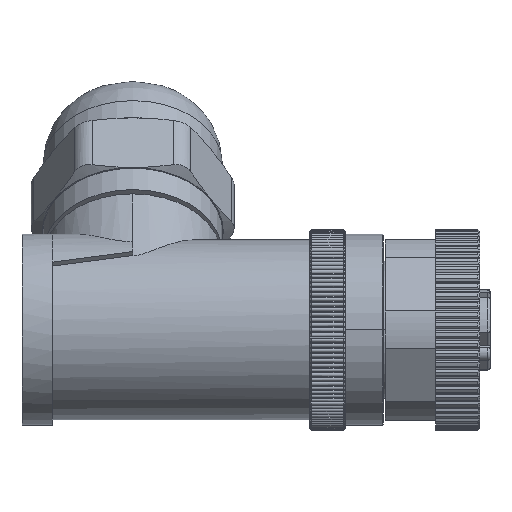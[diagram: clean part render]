
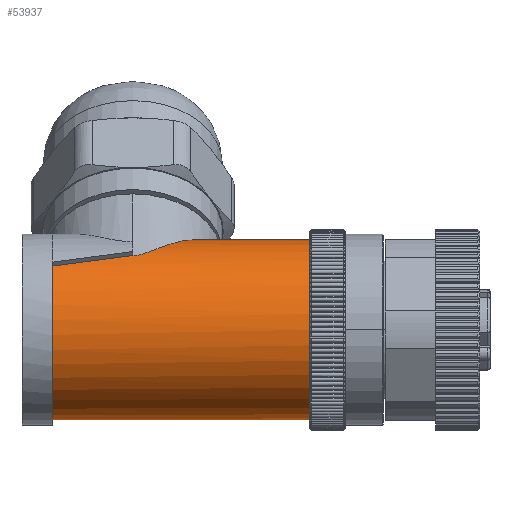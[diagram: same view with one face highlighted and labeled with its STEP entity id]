
A CAD part, left-side view. The second image highlights one B-rep face of the part: STEP entity #53937.
In plain terms, the highlighted cylindrical face has radius 8.95 mm (diameter 17.9 mm), a partial arc.
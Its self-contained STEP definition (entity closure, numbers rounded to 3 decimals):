
#11315=CARTESIAN_POINT('',(0.,16.385,
8.95));
#12228=CARTESIAN_POINT('',(0.,4.9,0.));
#12229=DIRECTION('',(0.,-1.,0.));
#12230=DIRECTION('',(0.,0.,1.));
#12231=AXIS2_PLACEMENT_3D('',#12228,#12229,#12230);
#12233=DIRECTION('',(0.,-1.,0.));
#12234=VECTOR('',#12233,25.6);
#12235=CARTESIAN_POINT('',(0.,30.5,-8.95));
#12236=LINE('',#12235,#12234);
#12237=CARTESIAN_POINT('',(0.,30.5,0.));
#12238=DIRECTION('',(0.,1.,0.));
#12239=DIRECTION('',(0.,0.,-1.));
#12240=AXIS2_PLACEMENT_3D('',#12237,#12238,#12239);
#12242=CARTESIAN_POINT('',(-5.069,22.5,7.376));
#12243=CARTESIAN_POINT('',(-5.524,25.166,
7.063));
#12244=CARTESIAN_POINT('',(-5.944,27.832,
6.713));
#12245=CARTESIAN_POINT('',(-6.329,30.5,6.329));
#12247=CARTESIAN_POINT('',(-5.069,22.5,7.376));
#12248=CARTESIAN_POINT('',(-5.069,22.31,
7.376));
#12249=CARTESIAN_POINT('',(-5.012,21.924,
7.416));
#12250=CARTESIAN_POINT('',(-4.762,21.322,
7.581));
#12251=CARTESIAN_POINT('',(-4.398,20.717,
7.8));
#12252=CARTESIAN_POINT('',(-3.939,20.091,
8.043));
#12253=CARTESIAN_POINT('',(-3.387,19.434,
8.293));
#12254=CARTESIAN_POINT('',(-2.737,18.738,
8.532));
#12255=CARTESIAN_POINT('',(-1.974,17.997,
8.743));
#12256=CARTESIAN_POINT('',(-1.081,17.214,
8.902));
#12257=CARTESIAN_POINT('',(-0.379,16.662,
8.95));
#12258=CARTESIAN_POINT('',(0.,16.385,
8.95));
#12260=DIRECTION('',(0.,-1.,0.));
#12261=VECTOR('',#12260,11.485);
#12262=CARTESIAN_POINT('',(0.,16.385,
8.95));
#12263=LINE('',#12262,#12261);
#39941=VERTEX_POINT('',#11315);
#39948=CARTESIAN_POINT('',(-6.329,30.5,6.329));
#39949=VERTEX_POINT('',#39948);
#39955=CARTESIAN_POINT('',(-5.069,22.5,7.376));
#39957=VERTEX_POINT('',#39955);
#39962=CARTESIAN_POINT('',(0.,30.5,-8.95));
#39963=VERTEX_POINT('',#39962);
#43967=CARTESIAN_POINT('',(0.,4.9,-8.95));
#43968=VERTEX_POINT('',#43967);
#43969=CARTESIAN_POINT('',(0.,4.9,8.95));
#43970=VERTEX_POINT('',#43969);
#53921=CARTESIAN_POINT('',(0.,33.5,0.));
#53922=DIRECTION('',(0.,-1.,0.));
#53923=DIRECTION('',(0.,0.,-1.));
#53924=AXIS2_PLACEMENT_3D('',#53921,#53922,#53923);
#53925=CYLINDRICAL_SURFACE('',#53924,8.95);
#53926=ORIENTED_EDGE('',*,*,#51547,.T.);
#53927=ORIENTED_EDGE('',*,*,#52887,.F.);
#53929=ORIENTED_EDGE('',*,*,#53928,.T.);
#53931=ORIENTED_EDGE('',*,*,#53930,.F.);
#53933=ORIENTED_EDGE('',*,*,#53932,.T.);
#53934=ORIENTED_EDGE('',*,*,#52877,.T.);
#53935=EDGE_LOOP('',(#53926,#53927,#53929,#53931,#53933,#53934));
#53936=FACE_OUTER_BOUND('',#53935,.F.);
#53937=ADVANCED_FACE('',(#53936),#53925,.T.);
#12232=CIRCLE('',#12231,8.95);
#12241=CIRCLE('',#12240,8.95);
#12246=B_SPLINE_CURVE_WITH_KNOTS('',3,(#12242,#12243,#12244,#12245),
.UNSPECIFIED.,.F.,.F.,(4,4),(0.,1.),.UNSPECIFIED.);
#12259=B_SPLINE_CURVE_WITH_KNOTS('',3,(#12247,#12248,#12249,#12250,#12251,
#12252,#12253,#12254,#12255,#12256,#12257,#12258),.UNSPECIFIED.,.F.,.F.,(4,1,1,
1,1,1,1,1,1,4),(0.,0.111,0.222,0.333,
0.444,0.556,0.667,0.778,
0.889,1.),.UNSPECIFIED.);
#51547=EDGE_CURVE('',#43970,#43968,#12232,.T.);
#52877=EDGE_CURVE('',#39941,#43970,#12263,.T.);
#52887=EDGE_CURVE('',#39963,#43968,#12236,.T.);
#53928=EDGE_CURVE('',#39963,#39949,#12241,.T.);
#53930=EDGE_CURVE('',#39957,#39949,#12246,.T.);
#53932=EDGE_CURVE('',#39957,#39941,#12259,.T.);
